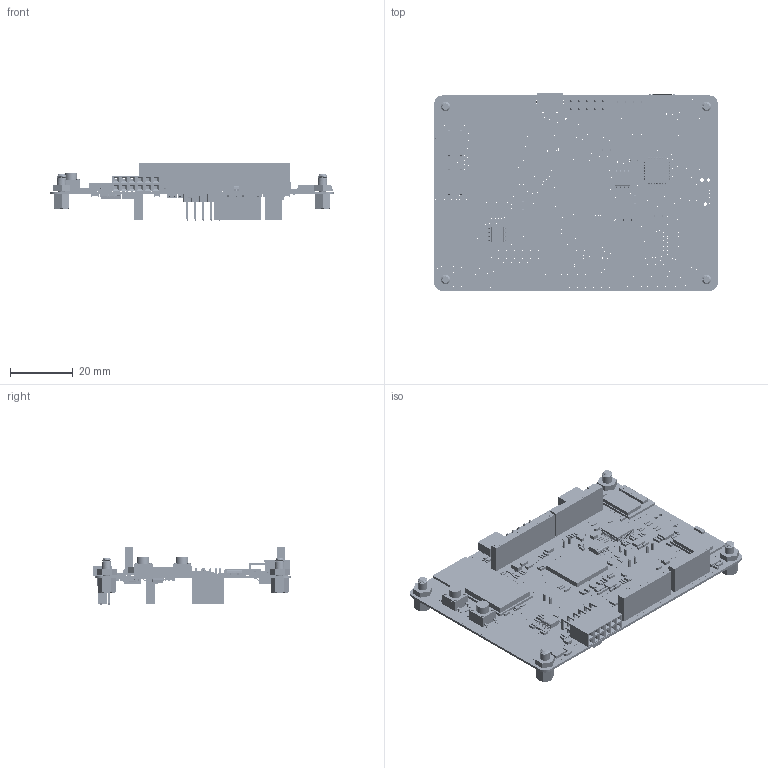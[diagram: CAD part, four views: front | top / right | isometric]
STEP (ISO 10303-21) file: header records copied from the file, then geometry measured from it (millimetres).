
FILE_DESCRIPTION(('Open CASCADE Model'),'2;1');
FILE_NAME('Open CASCADE Shape Model','2020-12-23T13:47:15',('Author'),( 'Open CASCADE'),'Open CASCADE STEP processor 6.8','Open CASCADE 6.8' ,'Unknown');
FILE_SCHEMA(('AUTOMOTIVE_DESIGN { 1 0 10303 214 1 1 1 1 }'));
Length unit declared in the file: millimetre
Products named in the file (439): PCB; Board; Open CASCADE STEP translator 6.8 2.1.1; R13; 6853824160; Extruded; 6853823600; R6; C76; 6853822000; 6853821440; 6853821280; C75; 6853820720; 6853426640; U10; 6852782384; 6852781984; Cylinder; 6852781584; C74; 6853424560; 6853424960; C46; 6852781184; 6852780784; 6853109984; U21; 6867866608; 6867866368; M1; 6867867808; 6867867568; 6867867328; 6867867088; 6867866848; CN10; 2x6_female_header_TH_2.54; 6867510960; 6867510480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
Assembly tree (1011 placements, depth 4):
  PCB
    Board
      Open CASCADE STEP translator 6.8 2.1.1
    R13
      6853824160  x2
        Extruded
      6853823600
        Extruded
    R6
      6853824160  x2
        Extruded
      6853823600
        Extruded
    C76
      6853822000
        Extruded
      6853821440
        Extruded
      6853821280
        Extruded
    C75
      6853820720
        Extruded
      6853426640
        Extruded
      6853821280
        Extruded
    U10
      6852782384
        Extruded
      6852781984
        Cylinder
      6852781584
        Cylinder
    C74
      6853424560
        Extruded
      6853424960  x2
        Extruded
    C46
      6852781184
        Extruded
      6852780784
        Extruded
      6853109984
        Extruded
    U21
      6867866608
        Extruded
      6867866368
        Cylinder
    M1
      6867867808
        Extruded
      6867867568
        Extruded
      6867867328
        Extruded
      6867867088
        Extruded
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Bounding box: 90.11 x 62.83 x 18.32 mm (x, y, z)
Volume: 11157.7 mm3; surface area: 28094.8 mm2
Topology: 703 solids, 855 shells, 10879 faces, 26483 edges, 16916 vertices
Faces by surface type: plane 7116, cylinder 2815, bspline 820, cone 94, sphere 28, torus 6
Full cylindrical faces by diameter (mm): 0.2 x590, 0.3 x280, 0.4 x1, 0.5 x6, 0.6 x9, 0.8 x2, 0.9 x2, 1 x37, 1.1 x3, 3.3 x4, 4 x2
Entity records: 178253 total; most frequent: CARTESIAN_POINT 34953, DIRECTION 25060, ORIENTED_EDGE 22920, EDGE_CURVE 11550, LINE 8414, VECTOR 8414, AXIS2_PLACEMENT_3D 8323, VERTEX_POINT 7592
